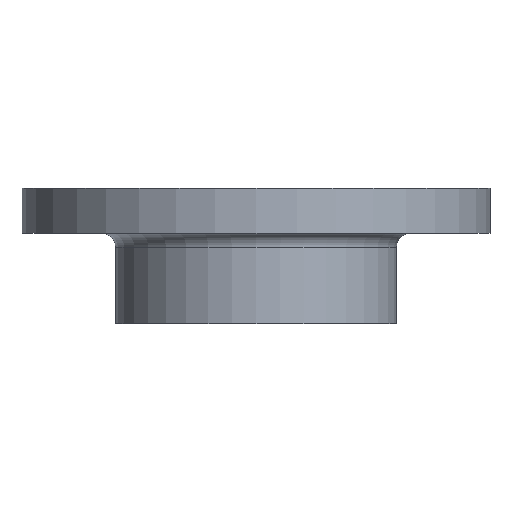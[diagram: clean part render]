
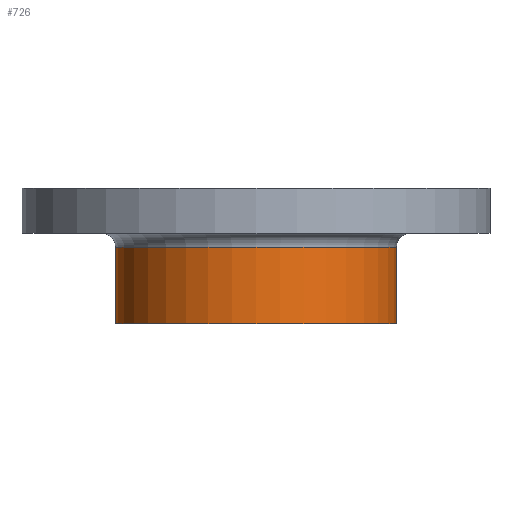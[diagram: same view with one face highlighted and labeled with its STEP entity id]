
A CAD part, front view. The second image highlights one B-rep face of the part: STEP entity #726.
In plain terms, the highlighted cylindrical face has radius 81 mm (diameter 162 mm), a partial arc.
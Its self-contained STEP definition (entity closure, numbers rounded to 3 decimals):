
#50 = EDGE_CURVE ( 'NONE', #388, #704, #405, .T. ) ;
#62 = VECTOR ( 'NONE', #136, 1000. ) ;
#92 = VECTOR ( 'NONE', #853, 1000. ) ;
#97 = EDGE_CURVE ( 'NONE', #388, #365, #850, .T. ) ;
#134 = LINE ( 'NONE', #135, #62 ) ;
#135 = CARTESIAN_POINT ( 'NONE',  ( 81., 0., 0. ) ) ;
#136 = DIRECTION ( 'NONE',  ( 0., 0., 1. ) ) ;
#163 = EDGE_CURVE ( 'NONE', #704, #341, #134, .T. ) ;
#231 = CARTESIAN_POINT ( 'NONE',  ( 81., 0., -34. ) ) ;
#250 = CARTESIAN_POINT ( 'NONE',  ( -81., 0., -34. ) ) ;
#260 = CARTESIAN_POINT ( 'NONE',  ( -81., 0., -78. ) ) ;
#312 = AXIS2_PLACEMENT_3D ( 'NONE', #479, #470, #469 ) ;
#323 = CIRCLE ( 'NONE', #312, 81. ) ;
#341 = VERTEX_POINT ( 'NONE', #231 ) ;
#355 = AXIS2_PLACEMENT_3D ( 'NONE', #587, #584, #580 ) ;
#365 = VERTEX_POINT ( 'NONE', #250 ) ;
#388 = VERTEX_POINT ( 'NONE', #260 ) ;
#405 = CIRCLE ( 'NONE', #425, 81. ) ;
#425 = AXIS2_PLACEMENT_3D ( 'NONE', #793, #795, #798 ) ;
#469 = DIRECTION ( 'NONE',  ( 1., 0., 0. ) ) ;
#470 = DIRECTION ( 'NONE',  ( 0., 0., 1. ) ) ;
#479 = CARTESIAN_POINT ( 'NONE',  ( 0., 0., -34. ) ) ;
#560 = ORIENTED_EDGE ( 'NONE', *, *, #97, .F. ) ;
#561 = ORIENTED_EDGE ( 'NONE', *, *, #50, .T. ) ;
#563 = ORIENTED_EDGE ( 'NONE', *, *, #163, .T. ) ;
#564 = ORIENTED_EDGE ( 'NONE', *, *, #770, .F. ) ;
#580 = DIRECTION ( 'NONE',  ( 1., 0., 0. ) ) ;
#584 = DIRECTION ( 'NONE',  ( 0., 0., 1. ) ) ;
#587 = CARTESIAN_POINT ( 'NONE',  ( 0., 0., 0. ) ) ;
#593 = CYLINDRICAL_SURFACE ( 'NONE', #355, 81. ) ;
#596 = FACE_OUTER_BOUND ( 'NONE', #656, .T. ) ;
#656 = EDGE_LOOP ( 'NONE', ( #560, #561, #563, #564 ) ) ;
#669 = CARTESIAN_POINT ( 'NONE',  ( 81., 0., -78. ) ) ;
#704 = VERTEX_POINT ( 'NONE', #669 ) ;
#726 = ADVANCED_FACE ( 'NONE', ( #596 ), #593, .T. ) ;
#770 = EDGE_CURVE ( 'NONE', #365, #341, #323, .T. ) ;
#793 = CARTESIAN_POINT ( 'NONE',  ( 0., 0., -78. ) ) ;
#795 = DIRECTION ( 'NONE',  ( 0., 0., 1. ) ) ;
#798 = DIRECTION ( 'NONE',  ( 1., 0., 0. ) ) ;
#850 = LINE ( 'NONE', #852, #92 ) ;
#852 = CARTESIAN_POINT ( 'NONE',  ( -81., 0., 0. ) ) ;
#853 = DIRECTION ( 'NONE',  ( 0., 0., 1. ) ) ;
